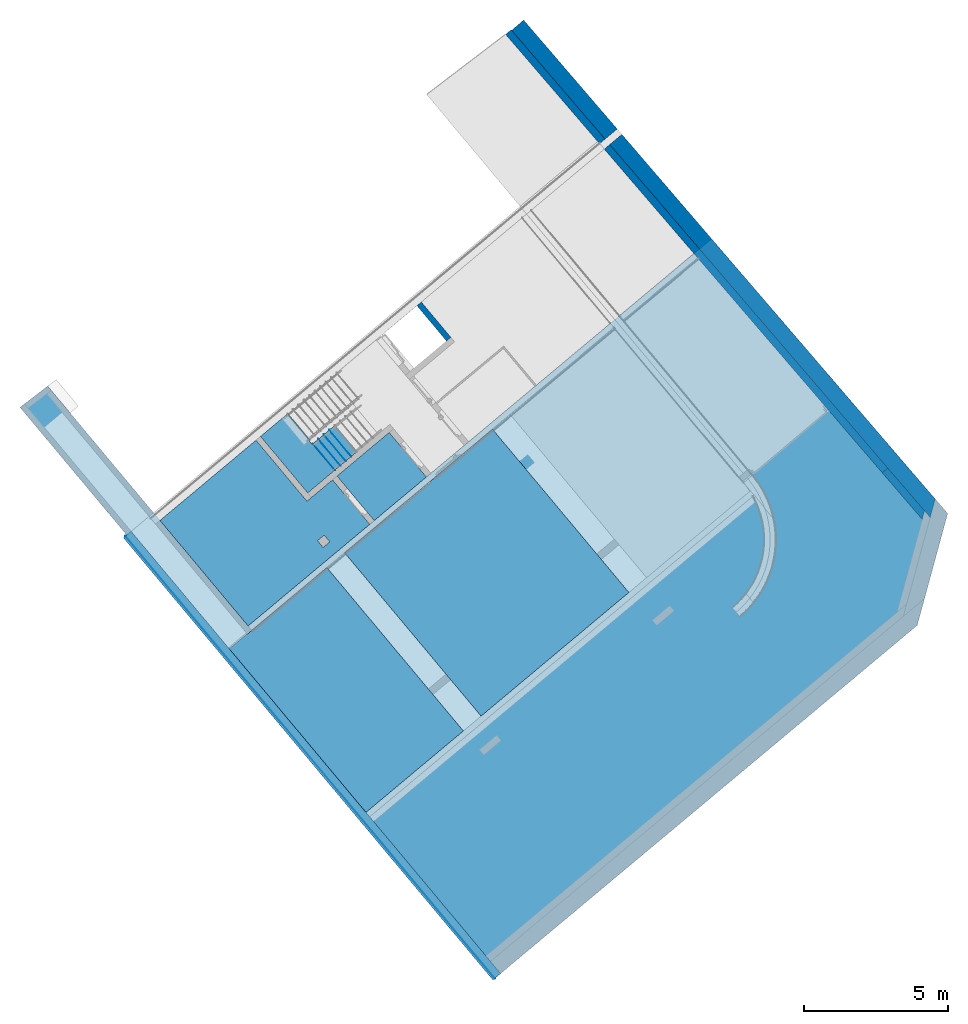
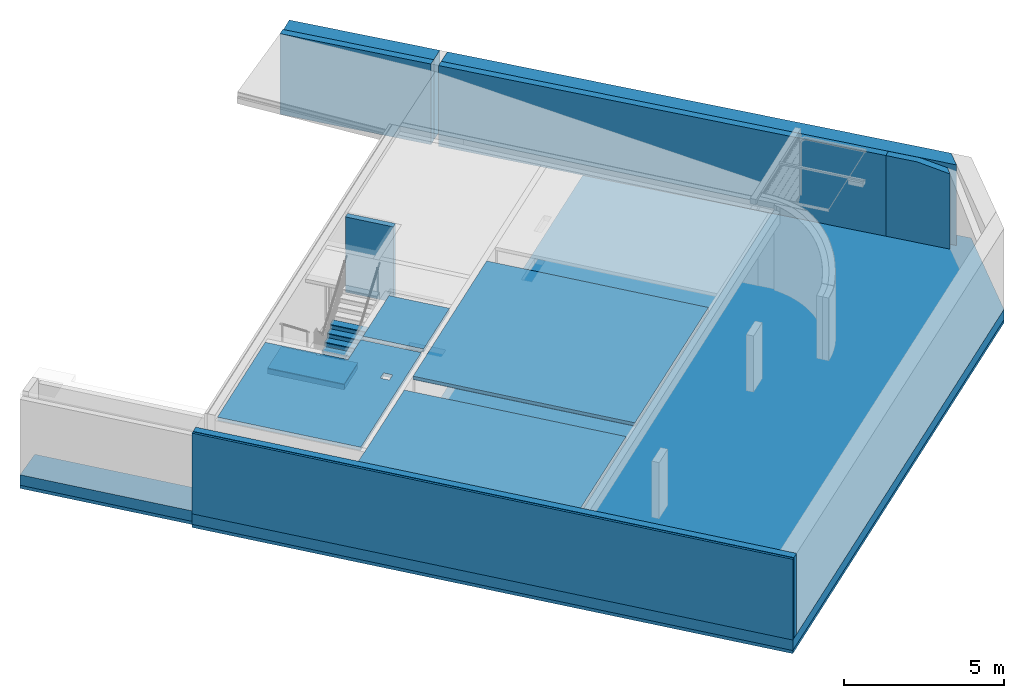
# One storey, part 8 of 17: 23 building element parts, 4 walls, 7 elements without a shape of their own.
"""IFC4 building model written with IfcOpenShell, lengths in metres."""

from ifc_helpers import new_model, entity, si_unit, converted_unit, derived_unit, direction, frame, origin_with_axes, place, context, subcontext, project, spatial, polygons, material, type_object, element, aggregate, save


model = new_model("IFC4")

# Units and contexts
model_context = context("Model", 3, precision=1e-05, world=origin_with_axes(), true_north=direction((0.0, 1.0)))
body_context = subcontext(model_context, "Body", "Model", "MODEL_VIEW")
ifc_project = project(units=[si_unit("LENGTHUNIT", "METRE"), si_unit("AREAUNIT", "SQUARE_METRE"), si_unit("VOLUMEUNIT", "CUBIC_METRE"), converted_unit("PLANEANGLEUNIT", "DEGREE", entity("IfcPlaneAngleMeasure", 0.0174532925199), si_unit("PLANEANGLEUNIT", "RADIAN"), dimensions=[0, 0, 0, 0, 0, 0, 0]), converted_unit("TIMEUNIT", "Year", entity("IfcTimeMeasure", 31556926.0), si_unit("TIMEUNIT", "SECOND"), dimensions=[0, 0, 1, 0, 0, 0, 0]), si_unit("MASSUNIT", "GRAM", prefix="KILO"), si_unit("THERMODYNAMICTEMPERATUREUNIT", "DEGREE_CELSIUS"), si_unit("LUMINOUSINTENSITYUNIT", "LUMEN"), si_unit("ENERGYUNIT", "JOULE", prefix="MEGA"), derived_unit("THERMALCONDUCTANCEUNIT", [(si_unit("POWERUNIT", "WATT"), 1), (si_unit("LENGTHUNIT", "METRE"), -1), (si_unit("THERMODYNAMICTEMPERATUREUNIT", "KELVIN"), -1)]), derived_unit("SPECIFICHEATCAPACITYUNIT", [(si_unit("ENERGYUNIT", "JOULE"), 1), (si_unit("MASSUNIT", "GRAM", prefix="KILO"), -1), (si_unit("THERMODYNAMICTEMPERATUREUNIT", "KELVIN"), -1)]), derived_unit("MASSDENSITYUNIT", [(si_unit("MASSUNIT", "GRAM", prefix="KILO"), 1), (si_unit("VOLUMEUNIT", "CUBIC_METRE"), -1)])], contexts=[model_context])

# Site, building, storey
site_placement = place(None, frame((-0.00153261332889, -0.00661245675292, 0.0), z_axis=(0.0, 0.0, 1.0), x_axis=(1.0, 0.0, 0.0)))
site = spatial("IfcSite", under=ifc_project, at=site_placement, Name="Site", CompositionType="ELEMENT")
building_placement = place(site_placement, origin_with_axes())
building = spatial("IfcBuilding", under=site, at=building_placement, Name="Building", CompositionType="ELEMENT")
storey_placement = place(building_placement, frame((0.0, 0.0, -3.3), z_axis=(0.0, 0.0, 1.0), x_axis=(1.0, 0.0, 0.0)))
storey = spatial("IfcBuildingStorey", under=building, at=storey_placement, Name="UG1", CompositionType="ELEMENT", Elevation=-3.3)

# Walls
ifc_material_1 = material(Name="Stahlbeton Wand")
wall_type_1 = type_object("IfcWallType", Name="Stahlbeton Wand 250", PredefinedType="NOTDEFINED")
wall_1_placement = place(storey_placement, frame((17.7691124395, 21.2660571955, 0.0), z_axis=(0.0, 0.0, 1.0), x_axis=(0.651731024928, -0.758450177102, 0.0)))
element("IfcWall", 1, at=wall_1_placement, inside=storey, type_object=wall_type_1, material=ifc_material_1, Name="Wand-004", PredefinedType="NOTDEFINED", context=body_context, shape_type="Tessellation", body=[
    polygons([(-3.6159635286e-07, 0.246189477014, 3.08), (1.03273894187, 0.24793201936, 3.07999999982), (1.9568428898, 0.24949126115, 2.90379906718), (1.95684288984, 0.249491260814, 0.0), (-3.6159635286e-07, 0.246189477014, 0.0), (0.0, 0.0, 3.08), (1.02561244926, 0.0, 3.08), (2.1256382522, 1.96070715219e-10, 2.87024548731), (2.12563825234, 0.0, 0.0), (0.0, 0.0, 0.0)], [[[1, 2, 3, 4, 5]], [[6, 7, 2, 1]], [[7, 8, 3, 2]], [[4, 3, 8, 9]], [[9, 10, 5, 4]], [[10, 6, 1, 5]], [[9, 8, 7, 6, 10]]], closed=True),
])
wall_type_2 = type_object("IfcWallType", Name="Stahlbeton Wand 200", PredefinedType="NOTDEFINED")
wall_2_placement = place(storey_placement, frame((1.37887022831, 27.3398542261, 0.0), z_axis=(0.0, 0.0, 1.0), x_axis=(0.641264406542, -0.767319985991, 0.0)))
element("IfcWall", 2, at=wall_2_placement, inside=storey, type_object=wall_type_2, material=ifc_material_1, Name="Wand-011", PredefinedType="NOTDEFINED", context=body_context, shape_type="Tessellation", body=[
    polygons([(1.94999809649, 0.2, 0.0), (1.94998379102, 0.0, 0.0), (0.350000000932, 0.0, 0.0), (0.350014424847, 0.2, 0.0), (1.94999809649, 0.2, 2.88), (1.94998379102, 0.0, 2.88), (0.350000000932, 0.0, 2.88), (0.350014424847, 0.2, 2.88)], [[[1, 2, 3, 4]], [[2, 1, 5, 6]], [[2, 6, 7, 3]], [[8, 4, 3, 7]], [[5, 1, 4, 8]], [[6, 5, 8, 7]]], closed=True),
])
ifc_material_2 = material(Name="Stahlbeton Decke Garage")
wall_type_3 = type_object("IfcWallType", Name="Stahlbeton Decke Garage 250", PredefinedType="NOTDEFINED")
wall_3_placement = place(storey_placement, frame((17.9587249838, 21.4289899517, 0.0), z_axis=(0.0, 0.0, 1.0), x_axis=(-0.651731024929, 0.758450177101, 0.0)))
element("IfcWall", 3, at=wall_3_placement, inside=storey, type_object=wall_type_3, material=ifc_material_2, Name="Wand-004", PredefinedType="NOTDEFINED", context=body_context, shape_type="Tessellation", body=[
    polygons([(20.0772937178, 0.25, 3.08), (15.0718320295, 0.25, 3.08), (15.0683838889, 0.0, 3.08), (20.0772937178, 0.0, 3.08), (20.0772937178, 0.25, 0.0), (15.0718320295, 0.25, 0.0), (15.0683838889, 0.0, 0.0), (20.0772937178, 0.0, 0.0)], [[[1, 2, 3, 4]], [[5, 6, 2, 1]], [[6, 7, 3, 2]], [[4, 3, 7, 8]], [[4, 8, 5, 1]], [[8, 7, 6, 5]]], closed=True),
    polygons([(0.0, 0.0, 0.0), (14.8183601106, 0.0, 0.0), (14.8183601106, 0.0, 3.08), (0.0, 0.0, 3.08), (0.0, 0.25, 0.0), (14.8218082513, 0.25, 0.0), (14.8218082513, 0.25, 3.08), (0.0, 0.25, 3.08)], [[[1, 2, 3, 4]], [[5, 6, 2, 1]], [[6, 7, 3, 2]], [[4, 3, 7, 8]], [[4, 8, 5, 1]], [[8, 7, 6, 5]]], closed=True),
])
ifc_material_3 = material(Name="Stahlbeton Wand Garage")
wall_type_4 = type_object("IfcWallType", Name="Stahlbeton Wand Garage 550", PredefinedType="NOTDEFINED")
wall_4_placement = place(storey_placement, frame((19.4305552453, 19.716151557, 0.0), z_axis=(0.0, 0.0, 1.0), x_axis=(-0.651731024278, 0.758450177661, 0.0)))
element("IfcWall", 4, at=wall_4_placement, inside=storey, type_object=wall_type_4, material=ifc_material_3, Name="Wand-004", PredefinedType="NOTDEFINED", context=body_context, shape_type="Tessellation", body=[
    polygons([(22.3076885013, 0.0, 3.08), (17.3267239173, -1.26441079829e-10, 3.08), (17.3191380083, -0.55, 3.08), (22.3076885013, -0.55, 3.08), (22.3076885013, 0.0, 0.0), (17.3267239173, -1.2645173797e-10, 0.0), (17.3191380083, -0.55, 0.0), (22.3076885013, -0.55, 0.0)], [[[1, 2, 3, 4]], [[5, 6, 2, 1]], [[6, 7, 3, 2]], [[4, 3, 7, 8]], [[5, 1, 4, 8]], [[8, 7, 6, 5]]], closed=True),
    polygons([(0.372107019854, -0.55, 0.0), (17.0691142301, -0.55, 0.0), (17.0691142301, -0.55, 3.08), (0.372107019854, -0.55, 3.08), (3.83122866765e-10, -5.66288349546e-10, 0.0), (17.0767001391, -1.327968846e-10, 0.0), (17.0767001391, -1.32786226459e-10, 3.08), (3.83122866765e-10, -5.66288349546e-10, 3.08)], [[[1, 2, 3, 4]], [[5, 6, 2, 1]], [[6, 7, 3, 2]], [[4, 3, 7, 8]], [[5, 1, 4, 8]], [[8, 7, 6, 5]]], closed=True),
])

# Stair, building element parts
stair_type = type_object("IfcStairType", Name="Treppentyp", PredefinedType="NOTDEFINED")
stair_placement = place(storey_placement, frame((-0.972083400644, 24.9200947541, 0.0), z_axis=(0.0, 0.0, 1.0), x_axis=(1.0, 0.0, 0.0)))
stair = element("IfcStair", 5, at=stair_placement, inside=storey, type_object=stair_type, Name="Treppe - 001", PredefinedType="NOTDEFINED")
ifc_material_4 = material(Name="Stahlbeton Decke")
building_element_part_1_placement = place(stair_placement, origin_with_axes())
building_element_part_1 = element("IfcBuildingElementPart", 6, at=building_element_part_1_placement, material=ifc_material_4, Name="Stahlbeton Decke", PredefinedType="NOTDEFINED", context=body_context, shape_type="Tessellation", body=[
    polygons([(-0.284297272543, -3.57341620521, 1.54166666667), (-0.284297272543, -3.57341620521, 1.74166666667), (-1.21798603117, -4.3536048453, 1.74166666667), (-1.21798603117, -4.3536048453, 1.54166666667), (-1.05374871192, -2.65257717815, 1.74166666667), (-1.05374871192, -2.65257717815, 1.54166666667), (-1.06659840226, -2.66331437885, 1.74166666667), (-1.16916164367, -2.54057210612, 1.74166666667), (-1.14927454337, -2.52395619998, 1.74166666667), (-1.91875555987, -1.6031419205, 1.74166666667), (-2.85949147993, -2.38913739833, 1.74166666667), (-2.85949147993, -2.38913739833, 1.54166666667), (-1.89949387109, -1.58704854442, 1.54166666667), (-1.13008955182, -2.5079269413, 1.54166666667), (-1.16916164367, -2.54057210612, 1.54166666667), (-1.06659840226, -2.66331437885, 1.54166666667), (-1.13008956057, -2.50792693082, 1.565), (-1.14927454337, -2.52395619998, 1.565), (-1.91875555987, -1.6031419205, 1.565), (-1.89949386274, -1.58704855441, 1.565)], [[[1, 2, 3, 4]], [[5, 2, 1, 6]], [[2, 5, 7, 8, 9, 10, 11, 3]], [[12, 4, 3, 11]], [[6, 1, 4, 12, 13, 14, 15, 16]], [[5, 6, 16, 7]], [[16, 15, 8, 7]], [[17, 18, 9, 8, 15, 14]], [[19, 10, 9, 18]], [[10, 19, 20, 13, 12, 11]], [[13, 20, 17, 14]], [[19, 18, 17, 20]]], closed=True),
])
ifc_material_5 = material(Name="BEKLEIDUNG")
building_element_part_2_placement = place(stair_placement, origin_with_axes())
building_element_part_2 = element("IfcBuildingElementPart", 7, at=building_element_part_2_placement, material=ifc_material_5, Name="BEKLEIDUNG", PredefinedType="NOTDEFINED", context=body_context, shape_type="Tessellation", body=[
    polygons([(-0.272786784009, -3.56379807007, 1.91833333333), (-0.26511312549, -3.55738597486, 1.91833333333), (-1.03456455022, -2.63654695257, 1.91833333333), (-1.04223820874, -2.64295904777, 1.91833333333), (-0.272786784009, -3.56379807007, 1.76666666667), (-0.26511312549, -3.55738597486, 1.76666666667), (-1.03456455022, -2.63654695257, 1.76666666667), (-1.04223820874, -2.64295904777, 1.76666666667)], [[[1, 2, 3, 4]], [[1, 5, 6, 2]], [[2, 6, 7, 3]], [[4, 3, 7, 8]], [[5, 1, 4, 8]], [[6, 5, 8, 7]]], closed=True),
])
building_element_part_3_placement = place(stair_placement, origin_with_axes())
building_element_part_3 = element("IfcBuildingElementPart", 8, at=building_element_part_3_placement, material=ifc_material_5, Name="BEKLEIDUNG", PredefinedType="NOTDEFINED", context=body_context, shape_type="Tessellation", body=[
    polygons([(-0.0835032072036, -3.40563305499, 2.095), (-0.0758295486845, -3.39922095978, 2.095), (-0.845280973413, -2.47838193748, 2.095), (-0.852954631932, -2.48479403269, 2.095), (-0.0835032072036, -3.40563305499, 1.94333333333), (-0.0758295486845, -3.39922095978, 1.94333333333), (-0.845280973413, -2.47838193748, 1.94333333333), (-0.852954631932, -2.48479403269, 1.94333333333)], [[[1, 2, 3, 4]], [[1, 5, 6, 2]], [[2, 6, 7, 3]], [[4, 3, 7, 8]], [[5, 1, 4, 8]], [[6, 5, 8, 7]]], closed=True),
])
building_element_part_4_placement = place(stair_placement, origin_with_axes())
building_element_part_4 = element("IfcBuildingElementPart", 9, at=building_element_part_4_placement, material=ifc_material_5, Name="BEKLEIDUNG", PredefinedType="NOTDEFINED", context=body_context, shape_type="Tessellation", body=[
    polygons([(0.105780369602, -3.2474680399, 2.27166666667), (0.113454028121, -3.2410559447, 2.27166666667), (-0.655997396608, -2.3202169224, 2.27166666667), (-0.663671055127, -2.32662901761, 2.27166666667), (0.105780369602, -3.2474680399, 2.12), (0.113454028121, -3.2410559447, 2.12), (-0.655997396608, -2.3202169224, 2.12), (-0.663671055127, -2.32662901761, 2.12)], [[[1, 2, 3, 4]], [[1, 5, 6, 2]], [[2, 6, 7, 3]], [[4, 3, 7, 8]], [[5, 1, 4, 8]], [[6, 5, 8, 7]]], closed=True),
])
building_element_part_5_placement = place(stair_placement, origin_with_axes())
building_element_part_5 = element("IfcBuildingElementPart", 10, at=building_element_part_5_placement, material=ifc_material_5, Name="BEKLEIDUNG", PredefinedType="NOTDEFINED", context=body_context, shape_type="Tessellation", body=[
    polygons([(0.295063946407, -3.08930302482, 2.44833333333), (0.302737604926, -3.08289092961, 2.44833333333), (-0.466713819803, -2.16205190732, 2.44833333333), (-0.474387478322, -2.16846400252, 2.44833333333), (0.295063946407, -3.08930302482, 2.29666666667), (0.302737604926, -3.08289092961, 2.29666666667), (-0.466713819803, -2.16205190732, 2.29666666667), (-0.474387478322, -2.16846400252, 2.29666666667)], [[[1, 2, 3, 4]], [[1, 5, 6, 2]], [[2, 6, 7, 3]], [[4, 3, 7, 8]], [[5, 1, 4, 8]], [[6, 5, 8, 7]]], closed=True),
])
building_element_part_6_placement = place(stair_placement, origin_with_axes())
building_element_part_6 = element("IfcBuildingElementPart", 11, at=building_element_part_6_placement, material=ifc_material_5, Name="BEKLEIDUNG", PredefinedType="NOTDEFINED", context=body_context, shape_type="Tessellation", body=[
    polygons([(-1.13008956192, -2.50792694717, 1.74166666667), (-1.89949385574, -1.58704854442, 1.74166666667), (-1.89949385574, -1.58704854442, 1.76666666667), (-1.13008956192, -2.50792694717, 1.76666666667), (-1.16478615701, -2.53691634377, 1.74166666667), (-1.16916165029, -2.54057211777, 1.74166666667), (-1.0665984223, -2.66331439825, 1.74166666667), (-1.06217598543, -2.65961901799, 1.74166666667), (-1.03456455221, -2.63654695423, 1.74166666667), (-0.265113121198, -3.55738597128, 1.74166666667), (-0.292724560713, -3.58045804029, 1.74166666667), (-1.21798601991, -4.3536048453, 1.74166666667), (-2.85949147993, -2.38913738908, 1.74166666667), (-1.93419045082, -1.61603794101, 1.74166666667), (-1.93419045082, -1.61603794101, 1.76666666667), (-2.85949147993, -2.38913738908, 1.76666666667), (-1.21798601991, -4.3536048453, 1.76666666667), (-0.292724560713, -3.58045804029, 1.76666666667), (-0.265113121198, -3.55738597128, 1.76666666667), (-1.03456455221, -2.63654695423, 1.76666666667), (-1.06217598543, -2.65961901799, 1.76666666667), (-1.0665984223, -2.66331439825, 1.76666666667), (-1.16916165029, -2.54057211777, 1.76666666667), (-1.16478615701, -2.53691634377, 1.76666666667)], [[[1, 2, 3, 4]], [[1, 5, 6, 7, 8, 9, 10, 11, 12, 13, 14, 2]], [[2, 14, 15, 3]], [[4, 3, 15, 16, 17, 18, 19, 20, 21, 22, 23, 24]], [[5, 1, 4, 24]], [[6, 5, 24, 23]], [[7, 6, 23, 22]], [[8, 7, 22, 21]], [[9, 8, 21, 20]], [[10, 9, 20, 19]], [[11, 10, 19, 18]], [[12, 11, 18, 17]], [[13, 12, 17, 16]], [[14, 13, 16, 15]]], closed=True),
])
building_element_part_7_placement = place(stair_placement, origin_with_axes())
building_element_part_7 = element("IfcBuildingElementPart", 12, at=building_element_part_7_placement, material=ifc_material_5, Name="BEKLEIDUNG", PredefinedType="NOTDEFINED", context=body_context, shape_type="Tessellation", body=[
    polygons([(-1.05374869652, -2.65257719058, 1.91833333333), (-0.284297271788, -3.57341621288, 1.91833333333), (-0.284297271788, -3.57341621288, 1.94333333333), (-1.05374869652, -2.65257719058, 1.94333333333), (-0.845280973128, -2.47838193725, 1.91833333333), (-0.0758295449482, -3.39922095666, 1.91833333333), (-0.0758295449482, -3.39922095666, 1.94333333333), (-0.845280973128, -2.47838193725, 1.94333333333)], [[[1, 2, 3, 4]], [[1, 5, 6, 2]], [[2, 6, 7, 3]], [[4, 3, 7, 8]], [[5, 1, 4, 8]], [[6, 5, 8, 7]]], closed=True),
])
building_element_part_8_placement = place(stair_placement, origin_with_axes())
building_element_part_8 = element("IfcBuildingElementPart", 13, at=building_element_part_8_placement, material=ifc_material_5, Name="BEKLEIDUNG", PredefinedType="NOTDEFINED", context=body_context, shape_type="Tessellation", body=[
    polygons([(-0.864465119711, -2.4944121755, 2.095), (-0.0950136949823, -3.41525119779, 2.095), (-0.0950136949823, -3.41525119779, 2.12), (-0.864465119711, -2.4944121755, 2.12), (-0.655997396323, -2.32021692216, 2.095), (0.113454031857, -3.24105594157, 2.095), (0.113454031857, -3.24105594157, 2.12), (-0.655997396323, -2.32021692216, 2.12)], [[[1, 2, 3, 4]], [[1, 5, 6, 2]], [[2, 6, 7, 3]], [[4, 3, 7, 8]], [[5, 1, 4, 8]], [[6, 5, 8, 7]]], closed=True),
])
building_element_part_9_placement = place(stair_placement, origin_with_axes())
building_element_part_9 = element("IfcBuildingElementPart", 14, at=building_element_part_9_placement, material=ifc_material_5, Name="BEKLEIDUNG", PredefinedType="NOTDEFINED", context=body_context, shape_type="Tessellation", body=[
    polygons([(-0.675181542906, -2.33624716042, 2.27166666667), (0.094269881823, -3.25708618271, 2.27166666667), (0.094269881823, -3.25708618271, 2.29666666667), (-0.675181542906, -2.33624716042, 2.29666666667), (-0.466713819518, -2.16205190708, 2.27166666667), (0.302737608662, -3.08289092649, 2.27166666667), (0.302737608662, -3.08289092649, 2.29666666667), (-0.466713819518, -2.16205190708, 2.29666666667)], [[[1, 2, 3, 4]], [[1, 5, 6, 2]], [[2, 6, 7, 3]], [[4, 3, 7, 8]], [[5, 1, 4, 8]], [[6, 5, 8, 7]]], closed=True),
])
building_element_part_10_placement = place(stair_placement, origin_with_axes())
building_element_part_10 = element("IfcBuildingElementPart", 15, at=building_element_part_10_placement, material=ifc_material_5, Name="BEKLEIDUNG", PredefinedType="NOTDEFINED", context=body_context, shape_type="Tessellation", body=[
    polygons([(-0.4858979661, -2.17808214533, 2.44833333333), (0.283553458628, -3.09892116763, 2.44833333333), (0.283553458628, -3.09892116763, 2.47333333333), (-0.4858979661, -2.17808214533, 2.47333333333), (-0.277430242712, -2.003886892, 2.44833333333), (0.492021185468, -2.92472591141, 2.44833333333), (0.492021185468, -2.92472591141, 2.47333333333), (-0.277430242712, -2.003886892, 2.47333333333)], [[[1, 2, 3, 4]], [[1, 5, 6, 2]], [[2, 6, 7, 3]], [[4, 3, 7, 8]], [[5, 1, 4, 8]], [[6, 5, 8, 7]]], closed=True),
])
aggregate(stair, [building_element_part_1, building_element_part_2, building_element_part_3, building_element_part_4, building_element_part_5, building_element_part_6, building_element_part_7, building_element_part_8, building_element_part_9, building_element_part_10])

# Slab, building element parts
slab_type = type_object("IfcSlabType", Name="EB 01 Bodenplatte Garage 520", PredefinedType="NOTDEFINED")
slab_placement = place(storey_placement, frame((-11.2218153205, 24.2798734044, 0.0), z_axis=(0.0, 0.0, 1.0), x_axis=(1.0, 0.0, 0.0)))
slab = element("IfcSlab", 16, at=slab_placement, inside=storey, type_object=slab_type, Name="Decke-005", PredefinedType="NOTDEFINED")
ifc_material_6 = material(Name="WU-Beton")
building_element_part_11_placement = place(slab_placement, origin_with_axes())
building_element_part_11 = element("IfcBuildingElementPart", 17, at=building_element_part_11_placement, material=ifc_material_6, Name="WU-Beton", PredefinedType="NOTDEFINED", context=body_context, shape_type="Tessellation", body=[
    polygons([(-0.960476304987, -0.738562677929, -0.4), (-0.960476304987, -0.738562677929, 0.0), (0.0, 0.0, 0.0), (0.0, 0.0, -0.4), (2.74614217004, -5.17444884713, -0.4), (2.74614217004, -5.17444884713, 0.0), (2.63112516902, -5.27055684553, 0.0), (15.4634004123, -20.6275493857, 0.0), (30.2011220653, -8.31060248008, 0.0), (31.2597870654, -4.42669469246, 0.0), (23.0585823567, 5.11742060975, 0.0), (6.962540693, -8.33240274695, 0.0), (6.962540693, -8.33240274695, -0.4), (23.0585823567, 5.11742060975, -0.4), (31.2597870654, -4.42669469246, -0.4), (30.2011220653, -8.31060248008, -0.4), (15.4634004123, -20.6275493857, -0.4), (2.63112516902, -5.27055684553, -0.4)], [[[1, 2, 3, 4]], [[5, 6, 2, 1]], [[3, 2, 6, 7, 8, 9, 10, 11, 12]], [[4, 3, 12, 13]], [[4, 13, 14, 15, 16, 17, 18, 5, 1]], [[18, 7, 6, 5]], [[17, 8, 7, 18]], [[16, 9, 8, 17]], [[15, 10, 9, 16]], [[14, 11, 10, 15]], [[13, 12, 11, 14]]], closed=True),
])
ifc_material_7 = material(Name="Stampfbeton")
building_element_part_12_placement = place(slab_placement, origin_with_axes())
building_element_part_12 = element("IfcBuildingElementPart", 18, at=building_element_part_12_placement, material=ifc_material_7, Name="Stampfbeton", PredefinedType="NOTDEFINED", context=body_context, shape_type="Tessellation", body=[
    polygons([(0.0, 0.0, -0.4), (0.0, 0.0, -0.52), (-0.960476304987, -0.738562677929, -0.52), (-0.960476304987, -0.738562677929, -0.4), (6.962540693, -8.33240274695, -0.4), (6.962540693, -8.33240274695, -0.52), (23.0585823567, 5.11742060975, -0.52), (31.2597870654, -4.42669469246, -0.52), (30.2011220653, -8.31060248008, -0.52), (15.4634004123, -20.6275493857, -0.52), (2.63112516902, -5.27055684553, -0.52), (2.74614217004, -5.17444884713, -0.52), (2.74614217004, -5.17444884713, -0.4), (2.63112516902, -5.27055684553, -0.4), (15.4634004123, -20.6275493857, -0.4), (30.2011220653, -8.31060248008, -0.4), (31.2597870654, -4.42669469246, -0.4), (23.0585823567, 5.11742060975, -0.4)], [[[1, 2, 3, 4]], [[5, 6, 2, 1]], [[3, 2, 6, 7, 8, 9, 10, 11, 12]], [[4, 3, 12, 13]], [[5, 1, 4, 13, 14, 15, 16, 17, 18]], [[18, 7, 6, 5]], [[17, 8, 7, 18]], [[16, 9, 8, 17]], [[15, 10, 9, 16]], [[14, 11, 10, 15]], [[13, 12, 11, 14]]], closed=True),
])
aggregate(slab, [building_element_part_11, building_element_part_12])

# Wall, building element parts
wall_type_5 = type_object("IfcWallType", Name="Keller-AW 350", PredefinedType="NOTDEFINED")
wall_5_placement = place(storey_placement, frame((-8.32211210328, 19.233739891, 0.0), z_axis=(0.0, 0.0, 1.0), x_axis=(0.641209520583, -0.767365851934, 0.0)))
wall_5 = element("IfcWall", 19, at=wall_5_placement, inside=storey, type_object=wall_type_5, Name="Wand-002", PredefinedType="NOTDEFINED")
building_element_part_13_placement = place(wall_5_placement, origin_with_axes())
building_element_part_13 = element("IfcBuildingElementPart", 20, at=building_element_part_13_placement, material=ifc_material_2, Name="Stahlbeton Decke Garage", PredefinedType="NOTDEFINED", context=body_context, shape_type="Tessellation", body=[
    polygons([(20.0126087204, 0.0, 0.0), (20.0126087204, -0.25, 0.0), (0.0, -0.25, 0.0), (0.0, 0.0, 0.0), (20.0126087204, 0.0, 3.08), (20.0126087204, -0.25, 3.08), (0.0, -0.25, 3.08), (0.0, 0.0, 3.08)], [[[1, 2, 3, 4]], [[1, 5, 6, 2]], [[2, 6, 7, 3]], [[4, 3, 7, 8]], [[5, 1, 4, 8]], [[6, 5, 8, 7]]], closed=True),
])
ifc_material_8 = material(Name="Sperrschicht")
building_element_part_14_placement = place(wall_5_placement, origin_with_axes())
building_element_part_14 = element("IfcBuildingElementPart", 21, at=building_element_part_14_placement, material=ifc_material_8, Name="Sperrschicht", PredefinedType="NOTDEFINED", context=body_context, shape_type="Tessellation", body=[
    polygons([(20.0126087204, -0.25, 0.0), (20.0126087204, -0.27, 0.0), (0.0, -0.27, 0.0), (0.0, -0.25, 0.0), (20.0126087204, -0.25, 3.08), (20.0126087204, -0.27, 3.08), (0.0, -0.27, 3.08), (0.0, -0.25, 3.08)], [[[1, 2, 3, 4]], [[1, 5, 6, 2]], [[2, 6, 7, 3]], [[4, 3, 7, 8]], [[5, 1, 4, 8]], [[6, 5, 8, 7]]], closed=True),
])
ifc_material_9 = material(Name="XPS KG")
building_element_part_15_placement = place(wall_5_placement, origin_with_axes())
building_element_part_15 = element("IfcBuildingElementPart", 22, at=building_element_part_15_placement, material=ifc_material_9, Name="XPS KG", PredefinedType="NOTDEFINED", context=body_context, shape_type="Tessellation", body=[
    polygons([(20.0126087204, -0.27, 0.0), (20.0126087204, -0.35, 0.0), (0.0, -0.35, 0.0), (0.0, -0.27, 0.0), (20.0126087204, -0.27, 3.08), (20.0126087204, -0.35, 3.08), (0.0, -0.35, 3.08), (0.0, -0.27, 3.08)], [[[1, 2, 3, 4]], [[1, 5, 6, 2]], [[2, 6, 7, 3]], [[4, 3, 7, 8]], [[5, 1, 4, 8]], [[6, 5, 8, 7]]], closed=True),
])
aggregate(wall_5, [building_element_part_13, building_element_part_14, building_element_part_15])

# Covering, building element parts
covering_type = type_object("IfcCoveringType", Name="Vorsatzschale Garage 130", PredefinedType="NOTDEFINED")
covering_1_placement = place(storey_placement, frame((3.21781801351, 12.3022646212, 2.88), z_axis=(0.0, 0.0, 1.0), x_axis=(1.0, 0.0, 0.0)))
covering_1 = element("IfcCovering", 23, at=covering_1_placement, inside=storey, type_object=covering_type, Name="Decke-006", PredefinedType="NOTDEFINED")
ifc_material_10 = material(Name="Holzwolledämmplatte")
building_element_part_16_placement = place(covering_1_placement, origin_with_axes())
building_element_part_16 = element("IfcBuildingElementPart", 24, at=building_element_part_16_placement, material=ifc_material_10, Name="Holzwolledämmplatte", PredefinedType="NOTDEFINED", context=body_context, shape_type="Tessellation", body=[
    polygons([(-4.73948422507, 5.67196557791, -0.12), (-4.73948422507, 5.67196557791, 0.0), (0.0, 0.0, 0.0), (0.0, 0.0, -0.12), (-7.34886518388, 3.4915715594, 0.0), (-7.34886518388, 3.4915715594, -0.12), (-7.5023383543, 3.36332965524, 0.0), (-7.50867826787, 3.37091728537, 0.0), (-8.13196424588, 2.85300083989, 0.0), (-3.38289253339, -2.83043857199, 0.0), (-3.38289253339, -2.83043857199, -0.12), (-8.13196424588, 2.85300083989, -0.12), (-7.50867826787, 3.37091728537, -0.12), (-7.5023383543, 3.36332965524, -0.12)], [[[1, 2, 3, 4]], [[5, 2, 1, 6]], [[2, 5, 7, 8, 9, 10, 3]], [[10, 11, 4, 3]], [[6, 1, 4, 11, 12, 13, 14]], [[5, 6, 14, 7]], [[8, 7, 14, 13]], [[8, 13, 12, 9]], [[11, 10, 9, 12]]], closed=True),
])
ifc_material_11 = material(Name="Zementputz")
building_element_part_17_placement = place(covering_1_placement, origin_with_axes())
building_element_part_17 = element("IfcBuildingElementPart", 25, at=building_element_part_17_placement, material=ifc_material_11, Name="Zementputz", PredefinedType="NOTDEFINED", context=body_context, shape_type="Tessellation", body=[
    polygons([(0.0, 0.0, -0.12), (0.0, 0.0, -0.13), (-4.73948422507, 5.67196557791, -0.13), (-4.73948422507, 5.67196557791, -0.12), (-3.38289253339, -2.83043857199, -0.12), (-3.38289253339, -2.83043857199, -0.13), (-7.50867826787, 3.37091728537, -0.13), (-7.5023383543, 3.36332965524, -0.13), (-7.34886518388, 3.4915715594, -0.13), (-8.13196424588, 2.85300083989, -0.13), (-7.34886518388, 3.4915715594, -0.12), (-7.5023383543, 3.36332965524, -0.12), (-7.50867826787, 3.37091728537, -0.12), (-8.13196424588, 2.85300083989, -0.12)], [[[1, 2, 3, 4]], [[2, 1, 5, 6]], [[7, 8, 9, 3, 2, 6, 10]], [[3, 9, 11, 4]], [[5, 1, 4, 11, 12, 13, 14]], [[14, 10, 6, 5]], [[8, 7, 13, 12]], [[8, 12, 11, 9]], [[10, 14, 13, 7]]], closed=True),
])
aggregate(covering_1, [building_element_part_16, building_element_part_17])

covering_2_placement = place(storey_placement, frame((8.96620806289, 17.1120002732, 2.88), z_axis=(0.0, 0.0, 1.0), x_axis=(1.0, 0.0, 0.0)))
covering_2 = element("IfcCovering", 26, at=covering_2_placement, inside=storey, type_object=covering_type, Name="Decke-005", PredefinedType="NOTDEFINED")
building_element_part_18_placement = place(covering_2_placement, origin_with_axes())
building_element_part_18 = element("IfcBuildingElementPart", 27, at=building_element_part_18_placement, material=ifc_material_10, Name="Holzwolledämmplatte", PredefinedType="NOTDEFINED", context=body_context, shape_type="Tessellation", body=[
    polygons([(0.0, 0.0, -0.12), (-4.73633943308, 5.66820205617, -0.12), (-4.73633943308, 5.66820205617, 0.0), (0.0, 0.0, 0.0), (-5.1348330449, -4.29636634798, -0.12), (-9.87398159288, 1.37519754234, -0.12), (-9.87398159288, 1.37519754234, 0.0), (-5.1348330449, -4.29636634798, 0.0)], [[[1, 2, 3, 4]], [[2, 1, 5, 6]], [[2, 6, 7, 3]], [[8, 4, 3, 7]], [[5, 1, 4, 8]], [[6, 5, 8, 7]]], closed=True),
])
building_element_part_19_placement = place(covering_2_placement, origin_with_axes())
building_element_part_19 = element("IfcBuildingElementPart", 28, at=building_element_part_19_placement, material=ifc_material_11, Name="Zementputz", PredefinedType="NOTDEFINED", context=body_context, shape_type="Tessellation", body=[
    polygons([(-4.73633943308, 5.66820205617, -0.13), (-4.73633943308, 5.66820205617, -0.12), (0.0, 0.0, -0.12), (0.0, 0.0, -0.13), (-9.87398159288, 1.37519754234, -0.13), (-9.87398159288, 1.37519754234, -0.12), (-5.1348330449, -4.29636634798, -0.12), (-5.1348330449, -4.29636634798, -0.13)], [[[1, 2, 3, 4]], [[5, 6, 2, 1]], [[2, 6, 7, 3]], [[4, 3, 7, 8]], [[8, 5, 1, 4]], [[8, 7, 6, 5]]], closed=True),
])
aggregate(covering_2, [building_element_part_18, building_element_part_19])

covering_3_placement = place(storey_placement, frame((-1.17463904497, 21.1543498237, 2.88), z_axis=(0.0, 0.0, 1.0), x_axis=(1.0, 0.0, 0.0)))
covering_3 = element("IfcCovering", 29, at=covering_3_placement, inside=storey, type_object=covering_type, Name="Decke-006", PredefinedType="NOTDEFINED")
building_element_part_20_placement = place(covering_3_placement, origin_with_axes())
building_element_part_20 = element("IfcBuildingElementPart", 30, at=building_element_part_20_placement, material=ifc_material_10, Name="Holzwolledämmplatte", PredefinedType="NOTDEFINED", context=body_context, shape_type="Tessellation", body=[
    polygons([(1.29383134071, -1.54838934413, -0.12), (1.29383134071, -1.54838934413, 0.0), (0.0, 0.0, 0.0), (0.0, 0.0, -0.12), (3.10864371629, -0.03193539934, -0.12), (3.10864371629, -0.03193539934, 0.0), (1.81481237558, 1.51645394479, 0.0), (1.81481237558, 1.51645394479, -0.12)], [[[1, 2, 3, 4]], [[5, 6, 2, 1]], [[3, 2, 6, 7]], [[4, 3, 7, 8]], [[4, 8, 5, 1]], [[8, 7, 6, 5]]], closed=True),
])
building_element_part_21_placement = place(covering_3_placement, origin_with_axes())
building_element_part_21 = element("IfcBuildingElementPart", 31, at=building_element_part_21_placement, material=ifc_material_11, Name="Zementputz", PredefinedType="NOTDEFINED", context=body_context, shape_type="Tessellation", body=[
    polygons([(0.0, 0.0, -0.13), (1.29383134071, -1.54838934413, -0.13), (1.29383134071, -1.54838934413, -0.12), (0.0, 0.0, -0.12), (1.81481237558, 1.51645394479, -0.13), (3.10864371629, -0.03193539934, -0.13), (3.10864371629, -0.03193539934, -0.12), (1.81481237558, 1.51645394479, -0.12)], [[[1, 2, 3, 4]], [[1, 5, 6, 2]], [[2, 6, 7, 3]], [[4, 3, 7, 8]], [[5, 1, 4, 8]], [[6, 5, 8, 7]]], closed=True),
])
aggregate(covering_3, [building_element_part_20, building_element_part_21])

covering_4_placement = place(storey_placement, frame((-1.32811221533, 21.0261079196, 2.88), z_axis=(0.0, 0.0, 1.0), x_axis=(1.0, 0.0, 0.0)))
covering_4 = element("IfcCovering", 32, at=covering_4_placement, inside=storey, type_object=covering_type, Name="Decke-007", PredefinedType="NOTDEFINED")
building_element_part_22_placement = place(covering_4_placement, origin_with_axes())
building_element_part_22 = element("IfcBuildingElementPart", 33, at=building_element_part_22_placement, material=ifc_material_10, Name="Holzwolledämmplatte", PredefinedType="NOTDEFINED", context=body_context, shape_type="Tessellation", body=[
    polygons([(-2.65642321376, 1.3759940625, -0.12), (-2.65642321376, 1.3759940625, 0.0), (-0.887188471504, -0.741333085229, 0.0), (-0.887188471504, -0.741333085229, -0.12), (-5.99415672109, -1.41300667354, 0.0), (-5.99415672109, -1.41300667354, -0.12), (-2.93117332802, -5.07879561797, 0.0), (1.29383134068, -1.54838934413, 0.0), (0.0, 0.0, 0.0), (-0.51795362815, -2.1194813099, 0.0), (-0.287743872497, -1.92711845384, 0.0), (-0.0953810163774, -2.15732820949, 0.0), (-0.32559077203, -2.34969106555, 0.0), (0.0, 0.0, -0.12), (1.29383134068, -1.54838934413, -0.12), (-2.93117332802, -5.07879561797, -0.12), (-0.0953810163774, -2.15732820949, -0.12), (-0.287743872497, -1.92711845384, -0.12), (-0.51795362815, -2.1194813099, -0.12), (-0.32559077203, -2.34969106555, -0.12)], [[[1, 2, 3, 4]], [[5, 2, 1, 6]], [[2, 5, 7, 8, 9, 3], [10, 11, 12, 13]], [[14, 4, 3, 9]], [[6, 1, 4, 14, 15, 16], [17, 18, 19, 20]], [[5, 6, 16, 7]], [[16, 15, 8, 7]], [[15, 14, 9, 8]], [[19, 18, 11, 10]], [[18, 17, 12, 11]], [[17, 20, 13, 12]], [[20, 19, 10, 13]]], closed=True),
])
building_element_part_23_placement = place(covering_4_placement, origin_with_axes())
building_element_part_23 = element("IfcBuildingElementPart", 34, at=building_element_part_23_placement, material=ifc_material_11, Name="Zementputz", PredefinedType="NOTDEFINED", context=body_context, shape_type="Tessellation", body=[
    polygons([(-2.65642321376, 1.3759940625, -0.13), (-2.65642321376, 1.3759940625, -0.12), (-0.887188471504, -0.741333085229, -0.12), (-0.887188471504, -0.741333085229, -0.13), (-5.99415672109, -1.41300667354, -0.12), (-5.99415672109, -1.41300667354, -0.13), (-2.93117332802, -5.07879561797, -0.12), (1.29383134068, -1.54838934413, -0.12), (0.0, 0.0, -0.12), (-0.51795362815, -2.1194813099, -0.12), (-0.287743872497, -1.92711845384, -0.12), (-0.0953810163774, -2.15732820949, -0.12), (-0.32559077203, -2.34969106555, -0.12), (0.0, 0.0, -0.13), (1.29383134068, -1.54838934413, -0.13), (-2.93117332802, -5.07879561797, -0.13), (-0.0953810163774, -2.15732820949, -0.13), (-0.287743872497, -1.92711845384, -0.13), (-0.51795362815, -2.1194813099, -0.13), (-0.32559077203, -2.34969106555, -0.13)], [[[1, 2, 3, 4]], [[5, 2, 1, 6]], [[2, 5, 7, 8, 9, 3], [10, 11, 12, 13]], [[9, 14, 4, 3]], [[6, 1, 4, 14, 15, 16], [17, 18, 19, 20]], [[5, 6, 16, 7]], [[7, 16, 15, 8]], [[8, 15, 14, 9]], [[10, 19, 18, 11]], [[11, 18, 17, 12]], [[12, 17, 20, 13]], [[13, 20, 19, 10]]], closed=True),
])
aggregate(covering_4, [building_element_part_22, building_element_part_23])

save(model, "model.ifc")
